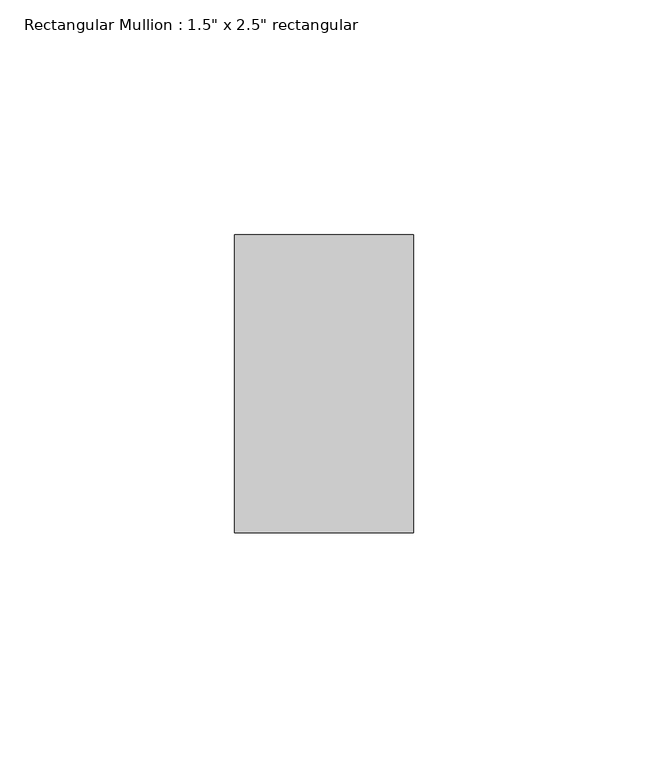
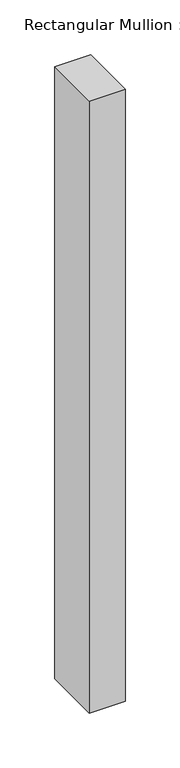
"""IFC4 building model written with IfcOpenShell, lengths in millimetres: member geometry."""

from ifc_helpers import new_model, si_unit, frame, origin, place, context, project, spatial, polyline, outline, extrude, source, transform, mapped, element, save


def member_56d069ed(model_context):
    return source(origin(), model_context, "Body", "SweptSolid", [
        extrude(outline(polyline([(0.0, 31.75), (0.0, -31.75), (-38.1, -31.75), (-38.1, 31.75), (0.0, 31.75)])), frame((0.0, 0.0, -684.2676155), z_axis=(0.0, 0.0, 1.0), x_axis=(1.0, 0.0, 0.0)), (0.0, 0.0, 1.0), 684.2676155),
    ])


if __name__ == "__main__":
    model = new_model("IFC4")
    model_context = context("Model", 3, world=origin())
    ifc_project = project(units=[si_unit("LENGTHUNIT", "METRE", prefix="MILLI")], contexts=[model_context])
    site = spatial("IfcSite", under=ifc_project)
    building = spatial("IfcBuilding", under=site)
    placement = place(None, origin())
    member_shape = member_56d069ed(model_context)
    element("IfcMember", 1, ObjectType="Rectangular Mullion : 1.5\" x 2.5\" rectangular", at=placement, inside=building, context=model_context, shape_type="MappedRepresentation", body=[
        mapped(member_shape, transform((0.0, 0.0, 0.0), x_axis=(1.0, 0.0, 0.0), y_axis=(0.0, 1.0, 0.0), z_axis=(0.0, 0.0, 1.0))),
    ])
    save(model, "model.ifc")
